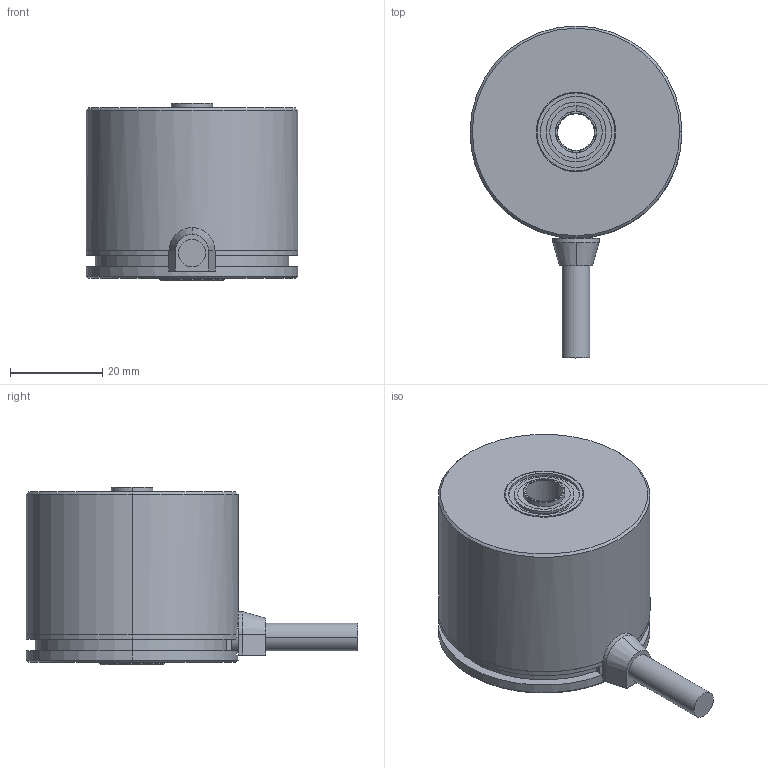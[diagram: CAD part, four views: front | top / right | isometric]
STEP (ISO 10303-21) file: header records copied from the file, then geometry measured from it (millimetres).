
FILE_DESCRIPTION(('STEP AP203'),'1');
FILE_NAME('C:/Users/MTL/Desktop/MAH-36.step','2017-06-20T23:50:46',(' '),(' '),'Spatial InterOp 3D',' ',' ');
FILE_SCHEMA(('CONFIG_CONTROL_DESIGN'));
Length unit declared in the file: millimetre
Products named in the file (12): 1; 2; 3; 4; 5; 6; 7; 8; 9; 10; 11; 12
Bounding box: 46 x 72 x 38.5 mm (x, y, z)
Volume: 28381.7 mm3; surface area: 26786.3 mm2
Topology: 12 solids, 12 shells, 153 faces, 340 edges, 216 vertices
Faces by surface type: cylinder 76, plane 49, cone 24, torus 4
Entity records: 4948 total; most frequent: CARTESIAN_POINT 847, DIRECTION 844, ORIENTED_EDGE 668, AXIS2_PLACEMENT_3D 349, EDGE_CURVE 334, VERTEX_POINT 216, EDGE_LOOP 186, CIRCLE 184
